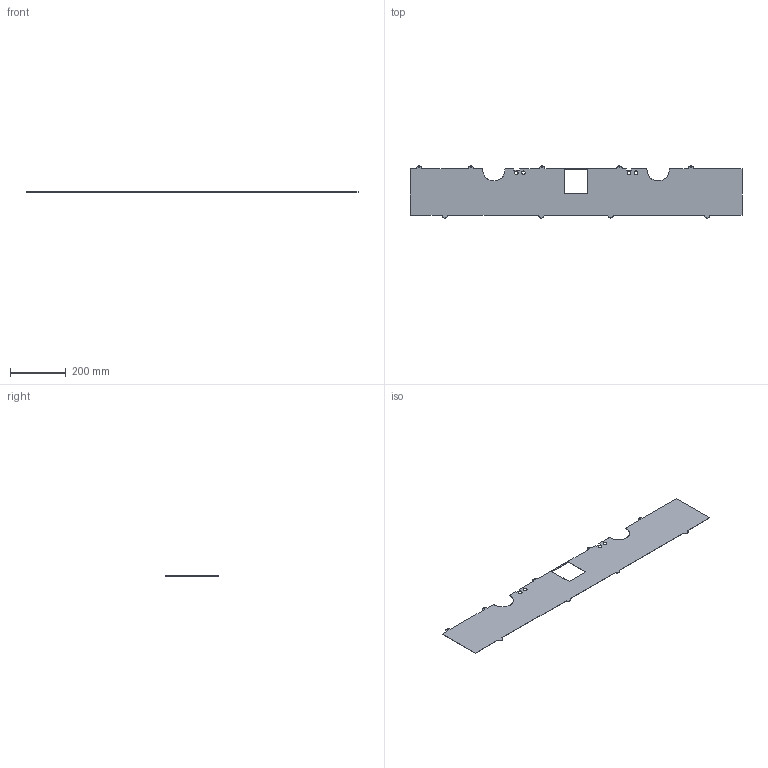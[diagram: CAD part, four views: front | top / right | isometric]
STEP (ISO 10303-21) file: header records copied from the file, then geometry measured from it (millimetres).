
FILE_DESCRIPTION(/* description */ (''),/* implementation_level */ '2;1');
FILE_NAME(/* name */ 'covering flat pattern _sheet metal.step',/* time_stamp */ '2026-07-17T00:13:44+05:30',/* author */ (''),/* organization */ (''),/* preprocessor_version */ 'ST-DEVELOPER v20.1',/* originating_system */ 'Autodesk Translation Framework v15.8.0.0',/* authorisation */ '');
FILE_SCHEMA (('AUTOMOTIVE_DESIGN { 1 0 10303 214 3 1 1 }'));
Length unit declared in the file: millimetre
Products named in the file (1): Flat Pattern
Bounding box: 1196.47 x 188.47 x 1 mm (x, y, z)
Volume: 189449.8 mm3; surface area: 382427.1 mm2
Topology: 1 solids, 1 shells, 57 faces, 173 edges, 118 vertices
Faces by surface type: plane 24, bspline 18, cylinder 15
Full cylindrical faces by diameter (mm): 3 x5
Entity records: 2935 total; most frequent: CARTESIAN_POINT 1428, ORIENTED_EDGE 346, DIRECTION 231, EDGE_CURVE 173, VERTEX_POINT 118, LINE 91, VECTOR 91, EDGE_LOOP 77
